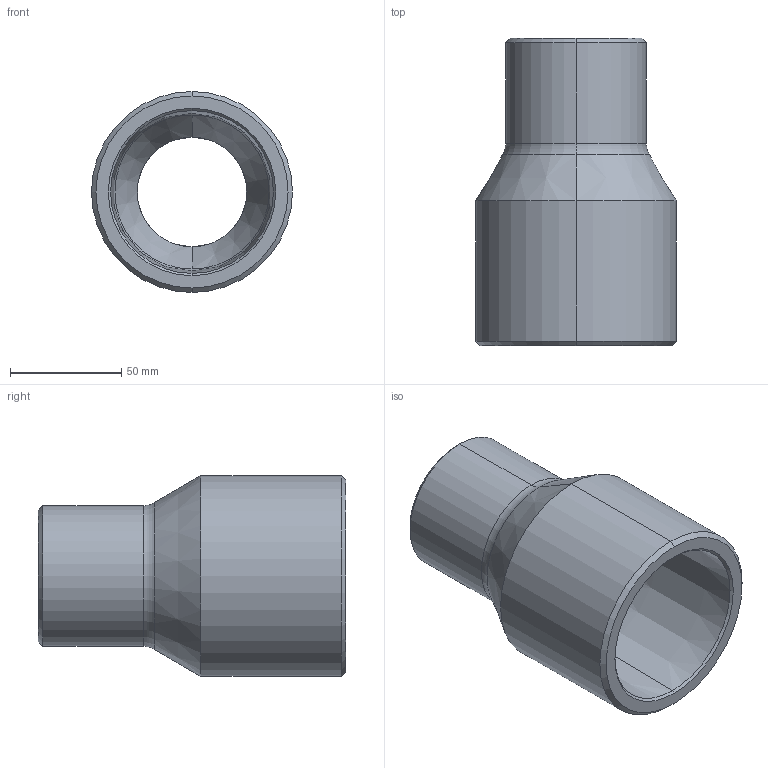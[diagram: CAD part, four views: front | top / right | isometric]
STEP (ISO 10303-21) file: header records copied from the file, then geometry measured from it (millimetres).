
FILE_DESCRIPTION (( 'STEP AP203' ), '1' );
FILE_NAME ('KP_9-90-63EC.step', '2011-08-08T11:38:57', ( '' ), ( '' ), 'SwSTEP 2.0', 'SolidWorks 2011', '' );
FILE_SCHEMA (( 'CONFIG_CONTROL_DESIGN' ));
Length unit declared in the file: millimetre
Products named in the file (1): KP_9-90-63EC
Bounding box: 90.2 x 138 x 90.2 mm (x, y, z)
Volume: 253427 mm3; surface area: 64459.9 mm2
Topology: 1 solids, 1 shells, 26 faces, 52 edges, 28 vertices
Faces by surface type: cone 16, torus 4, cylinder 4, plane 2
Entity records: 749 total; most frequent: DIRECTION 138, CARTESIAN_POINT 107, ORIENTED_EDGE 104, AXIS2_PLACEMENT_3D 59, EDGE_CURVE 52, CIRCLE 32, EDGE_LOOP 28, VERTEX_POINT 28
